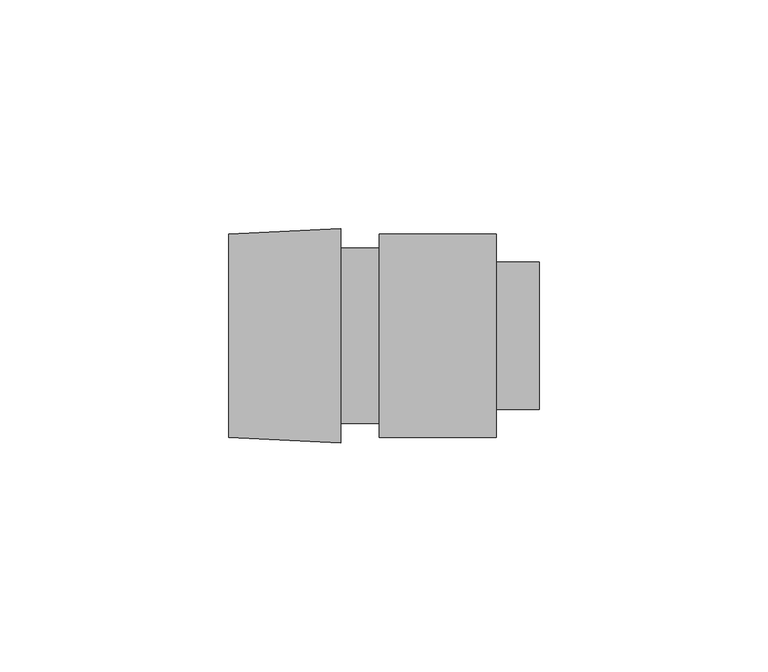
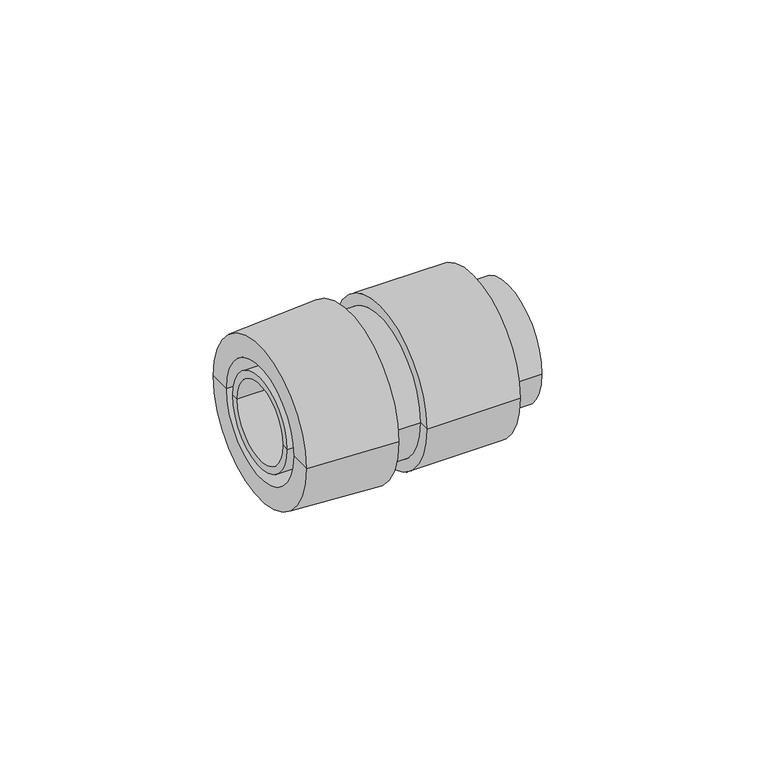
"""IFC4 building model written with IfcOpenShell, lengths in millimetres: cable carrier fitting geometry, КНС_ПереходникАрмированнаяТрубаКоробка_IP65_DKC : Коробка."""

import ifcopenshell
import ifcopenshell.guid

model = None  # the IFC model being written
_history = None  # IfcOwnerHistory: only IFC2X3 demands one
_inside = {}  # id of a spatial element -> (the spatial element, [elements in it])
_under = {}  # id of a project, library or spatial element -> (it, [spatial elements below it])
_declared = {}  # id of a project -> (the project, [libraries it declares])
_typed = {}  # id of a type object -> (the type object, [elements of that type])
_made_of = {}  # id of a material, layer set ... -> (it, [elements and type objects made of it])


def new_model(schema):
    """Start an empty IFC model of exactly this schema.

    Asked for "IFC4X3", IfcOpenShell would pick the latest addendum, in which some entities
    have other attributes; the version numbers below select the first issue.
    IFC2X3 requires an IfcOwnerHistory on every rooted entity: one is made here for all.
    """
    global model, _history
    if schema == "IFC4X3":
        model = ifcopenshell.file(schema_version=(4, 3, 0, 0))
    else:
        model = ifcopenshell.file(schema=schema)
    _inside.clear()
    _under.clear()
    _declared.clear()
    _typed.clear()
    _made_of.clear()
    _history = None
    if model.schema == "IFC2X3":
        org = make("IfcOrganization", Name="unknown")
        user = make(
            "IfcPersonAndOrganization",
            ThePerson=make("IfcPerson", FamilyName="unknown"),
            TheOrganization=org,
        )
        app = make(
            "IfcApplication",
            ApplicationDeveloper=org,
            Version="unknown",
            ApplicationFullName="unknown",
            ApplicationIdentifier="unknown",
        )
        _history = make(
            "IfcOwnerHistory",
            OwningUser=user,
            OwningApplication=app,
            ChangeAction="ADDED",
            CreationDate=0,
        )
    return model


def make(cls, **values):
    """One entity of the class cls with the attributes given. An attribute that is None is left unset."""
    return model.create_entity(
        cls, **{name: value for name, value in values.items() if value is not None}
    )


def rooted(cls, **values):
    """An entity with a GlobalId (a new one), such as an element, a storey or a relation."""
    return make(cls, GlobalId=ifcopenshell.guid.new(), OwnerHistory=_history, **values)


def si_unit(unit_type, name, prefix=None):
    """IfcSIUnit, for example si_unit("LENGTHUNIT", "METRE", prefix="MILLI")."""
    return make("IfcSIUnit", UnitType=unit_type, Prefix=prefix, Name=name)


def assignment(units):
    """IfcUnitAssignment: the units of a project."""
    return None if units is None else make("IfcUnitAssignment", Units=units)


def point(xyz):
    """IfcCartesianPoint."""
    return None if xyz is None else make("IfcCartesianPoint", Coordinates=xyz)


def direction(xyz):
    """IfcDirection."""
    return None if xyz is None else make("IfcDirection", DirectionRatios=xyz)


def frame(location, z_axis=None, x_axis=None):
    """IfcAxis2Placement3D, a coordinate frame: its origin and axes. An axis left out is left unset."""
    return make(
        "IfcAxis2Placement3D",
        Location=point(location),
        Axis=direction(z_axis),
        RefDirection=direction(x_axis),
    )


def origin():
    """The frame at (0, 0, 0) with its axes left unset."""
    return frame((0.0, 0.0, 0.0))


def place(relative_to, where):
    """IfcLocalPlacement: puts the frame where relative to a parent placement (None: the world)."""
    return make(
        "IfcLocalPlacement", PlacementRelTo=relative_to, RelativePlacement=where
    )


def context(
    kind, dimensions, precision=None, world=None, true_north=None, identifier=None
):
    """IfcGeometricRepresentationContext, for example the 3D "Model" context."""
    return make(
        "IfcGeometricRepresentationContext",
        ContextIdentifier=identifier,
        ContextType=kind,
        CoordinateSpaceDimension=dimensions,
        Precision=precision,
        WorldCoordinateSystem=world,
        TrueNorth=true_north,
    )


def project(units=None, contexts=None):
    """IfcProject with its units and contexts."""
    return rooted(
        "IfcProject",
        Name="project",
        RepresentationContexts=contexts,
        UnitsInContext=assignment(units),
    )


def spatial(cls, under=None, at=None, **own):
    """A site, building, storey or space (cls), placed at a placement, below another one or the project."""
    s = rooted(cls, ObjectPlacement=at, **own)
    if under is not None:
        _under.setdefault(under.id(), (under, []))[1].append(s)
    return s


def polyline(points):
    """IfcPolyline through the points."""
    return make("IfcPolyline", Points=[point(p) for p in points])


def circle_curve(where, radius):
    """IfcCircle in the frame where."""
    return make("IfcCircle", Position=where, Radius=radius)


def shape(context_of_items, identifier, shape_type, items):
    """IfcShapeRepresentation: the items that make up one representation, for example the "Body"."""
    return make(
        "IfcShapeRepresentation",
        ContextOfItems=context_of_items,
        RepresentationIdentifier=identifier,
        RepresentationType=shape_type,
        Items=items,
    )


def source(mapping_origin, context_of_items, identifier, shape_type, items):
    """IfcRepresentationMap: a shape defined once, which mapped items show again and again."""
    return make(
        "IfcRepresentationMap",
        MappingOrigin=mapping_origin,
        MappedRepresentation=shape(context_of_items, identifier, shape_type, items),
    )


def transform(
    local_origin,
    x_axis=None,
    y_axis=None,
    z_axis=None,
    scale=None,
    scale2=None,
    scale3=None,
    uniform=True,
):
    """IfcCartesianTransformationOperator3D, or its non-uniform kind. x_axis, y_axis, z_axis: its Axis1, 2, 3."""
    if uniform:
        return make(
            "IfcCartesianTransformationOperator3D",
            Axis1=direction(x_axis),
            Axis2=direction(y_axis),
            LocalOrigin=point(local_origin),
            Scale=scale,
            Axis3=direction(z_axis),
        )
    return make(
        "IfcCartesianTransformationOperator3DnonUniform",
        Axis1=direction(x_axis),
        Axis2=direction(y_axis),
        LocalOrigin=point(local_origin),
        Scale=scale,
        Axis3=direction(z_axis),
        Scale2=scale2,
        Scale3=scale3,
    )


def mapped(mapping_source, mapping_target):
    """IfcMappedItem: shows the shape of a source again, moved by a transform."""
    return make(
        "IfcMappedItem", MappingSource=mapping_source, MappingTarget=mapping_target
    )


def made_of(thing, what):
    """Note that an element or type object is made of a material, layer set ...; save() writes the relation."""
    if what is not None:
        _made_of.setdefault(what.id(), (what, []))[1].append(thing)
    return thing


def element(
    cls,
    number,
    at=None,
    inside=None,
    cuts=None,
    type_object=None,
    material=None,
    context=None,
    identifier="Body",
    shape_type=None,
    held_by="IfcProductDefinitionShape",
    body=None,
    shapes=None,
    **own,
):
    """One element of the class cls, such as IfcWall. Its Tag is "e" and its number.

    at: its placement. inside: the storey or other place that contains it. cuts: it is an
    opening in that element (IfcRelVoidsElement). A single representation is given by context,
    identifier, shape_type and body (its items); several are given by shapes. held_by: the class
    of the entity that holds the representations. save() writes the other relations.
    """
    e = rooted(cls, Tag="e%d" % number, ObjectPlacement=at, **own)
    if body is not None:
        shapes = [shape(context, identifier, shape_type, body)]
    if shapes is not None:
        e.Representation = make(held_by, Representations=shapes)
    if inside is not None:
        _inside.setdefault(inside.id(), (inside, []))[1].append(e)
    if cuts is not None:
        rooted(
            "IfcRelVoidsElement", RelatingBuildingElement=cuts, RelatedOpeningElement=e
        )
    if type_object is not None:
        _typed.setdefault(type_object.id(), (type_object, []))[1].append(e)
    return made_of(e, material)


def aggregate(whole, parts):
    """IfcRelAggregates: a whole, such as a stair, and the parts it consists of."""
    return rooted("IfcRelAggregates", RelatingObject=whole, RelatedObjects=parts)


def save(model, path):
    """Write the relations noted so far, then the file.

    IfcRelAggregates (storeys below a building ...), IfcRelContainedInSpatialStructure (elements
    in a storey), IfcRelDefinesByType, IfcRelAssociatesMaterial and IfcRelDeclares: one each for
    every whole, place, type object, material and project.
    """
    for whole, parts in _under.values():
        aggregate(whole, parts)
    for where, things in _inside.values():
        rooted(
            "IfcRelContainedInSpatialStructure",
            RelatedElements=things,
            RelatingStructure=where,
        )
    for kind, things in _typed.values():
        rooted("IfcRelDefinesByType", RelatedObjects=things, RelatingType=kind)
    for what, things in _made_of.values():
        rooted("IfcRelAssociatesMaterial", RelatedObjects=things, RelatingMaterial=what)
    for by, libraries in _declared.values():
        rooted("IfcRelDeclares", RelatingContext=by, RelatedDefinitions=libraries)
    model.write(path)


def plane_surface(at):
    """IfcPlane: the flat surface through the origin of the frame at, square to its z axis."""
    return make("IfcPlane", Position=at)


def cylinder_surface(at, radius):
    """IfcCylindricalSurface: all points at the distance radius from the z axis of the frame at."""
    return make("IfcCylindricalSurface", Position=at, Radius=radius)


def revolved_surface(curve, axis_point, axis_direction):
    """IfcSurfaceOfRevolution: the curve turned about the line through axis_point along axis_direction."""
    return make(
        "IfcSurfaceOfRevolution",
        SweptCurve=make("IfcArbitraryOpenProfileDef", ProfileType="CURVE", Curve=curve),
        AxisPosition=make("IfcAxis1Placement", Location=point(axis_point), Axis=direction(axis_direction)),
    )


def advanced_brep(points, edges, surfaces, faces):
    """IfcAdvancedBrep: a solid bounded by faces that lie on surfaces and meet in shared edges.

    An edge is (start, end): straight between two places in points (the first is 0);
    or (start, end, curve); or (start, end, curve, False) where it runs against its curve.
    A face is (place in surfaces, loops), or (place, loops, False) where it looks against
    its surface's normal. A loop lists edges by number (the first is 1), with a minus sign
    where the edge is run from its end to its start. The first loop is the outer one.
    """
    corners = [point(p) for p in points]
    vertices = [make("IfcVertexPoint", VertexGeometry=c) for c in corners]
    made = []
    for start, end, *more in edges:
        made.append(
            make(
                "IfcEdgeCurve",
                EdgeStart=vertices[start],
                EdgeEnd=vertices[end],
                EdgeGeometry=more[0] if more else make("IfcPolyline", Points=[corners[start], corners[end]]),
                SameSense=more[1] if len(more) > 1 else True,
            )
        )
    hull = []
    for where, loops, *sense in faces:
        bounds = []
        for j, loop in enumerate(loops):
            ring = [make("IfcOrientedEdge", EdgeElement=made[abs(k) - 1], Orientation=k > 0) for k in loop]
            bounds.append(
                make(
                    "IfcFaceOuterBound" if j == 0 else "IfcFaceBound",
                    Bound=make("IfcEdgeLoop", EdgeList=ring),
                    Orientation=True,
                )
            )
        hull.append(make("IfcAdvancedFace", Bounds=bounds, FaceSurface=surfaces[where], SameSense=sense[0] if sense else True))
    return make("IfcAdvancedBrep", Outer=make("IfcClosedShell", CfsFaces=hull))


def cable_carrier_fitting_34188251(model_context):
    return source(origin(), model_context, "Body", "AdvancedBrep", [
        advanced_brep(
        [(43.5, -14.0853846, 0.0), (43.5, 14.0853846, 0.0), (0.0, 14.0853846, 0.0), (0.0, -14.0853846, 0.0), (43.5, -16.15, 0.0), (43.5, 16.15, 0.0), (34.0, -16.15, 0.0), (34.0, 16.15, 0.0), (34.0, -22.25, 0.0), (34.0, 22.25, 0.0), (8.5, -22.25, 0.0), (8.5, 22.25, 0.0), (8.5, -19.2, 0.0), (8.5, 19.2, 0.0), (0.0, -19.2, 0.0), (0.0, 19.2, 0.0)],
        [
            (0, 1, circle_curve(frame((43.5, 0.0, 0.0), z_axis=(1.0, 0.0, 0.0), x_axis=(0.0, 1.0, 0.0)), 14.0853846)),
            (1, 2),
            (2, 3, circle_curve(frame((0.0, 0.0, 0.0), z_axis=(-1.0, 0.0, 0.0), x_axis=(0.0, 1.0, 0.0)), 14.0853846)),
            (3, 0),
            (1, 0, circle_curve(frame((43.5, 0.0, 0.0), z_axis=(1.0, 0.0, 0.0), x_axis=(0.0, 1.0, 0.0)), 14.0853846)),
            (3, 2, circle_curve(frame((0.0, 0.0, 0.0), z_axis=(-1.0, 0.0, 0.0), x_axis=(0.0, 1.0, 0.0)), 14.0853846)),
            (4, 5, circle_curve(frame((43.5, 0.0, 0.0), z_axis=(1.0, 0.0, 0.0), x_axis=(0.0, 1.0, 0.0)), 16.15)),
            (5, 1),
            (0, 4),
            (5, 4, circle_curve(frame((43.5, 0.0, 0.0), z_axis=(1.0, 0.0, 0.0), x_axis=(0.0, 1.0, 0.0)), 16.15)),
            (6, 7, circle_curve(frame((34.0, 0.0, 0.0), z_axis=(1.0, 0.0, 0.0), x_axis=(0.0, 1.0, 0.0)), 16.15)),
            (7, 5),
            (4, 6),
            (7, 6, circle_curve(frame((34.0, 0.0, 0.0), z_axis=(1.0, 0.0, 0.0), x_axis=(0.0, 1.0, 0.0)), 16.15)),
            (8, 9, circle_curve(frame((34.0, 0.0, 0.0), z_axis=(1.0, 0.0, 0.0), x_axis=(0.0, 1.0, 0.0)), 22.25)),
            (9, 7),
            (6, 8),
            (9, 8, circle_curve(frame((34.0, 0.0, 0.0), z_axis=(1.0, 0.0, 0.0), x_axis=(0.0, 1.0, 0.0)), 22.25)),
            (10, 11, circle_curve(frame((8.5, 0.0, 0.0), z_axis=(1.0, 0.0, 0.0), x_axis=(0.0, 1.0, 0.0)), 22.25)),
            (11, 9),
            (8, 10),
            (11, 10, circle_curve(frame((8.5, 0.0, 0.0), z_axis=(1.0, 0.0, 0.0), x_axis=(0.0, 1.0, 0.0)), 22.25)),
            (12, 13, circle_curve(frame((8.5, 0.0, 0.0), z_axis=(1.0, 0.0, 0.0), x_axis=(0.0, 1.0, 0.0)), 19.2)),
            (13, 11),
            (10, 12),
            (13, 12, circle_curve(frame((8.5, 0.0, 0.0), z_axis=(1.0, 0.0, 0.0), x_axis=(0.0, 1.0, 0.0)), 19.2)),
            (14, 15, circle_curve(frame((0.0, 0.0, 0.0), z_axis=(1.0, 0.0, 0.0), x_axis=(0.0, 1.0, 0.0)), 19.2)),
            (15, 13),
            (12, 14),
            (15, 14, circle_curve(frame((0.0, 0.0, 0.0), z_axis=(1.0, 0.0, 0.0), x_axis=(0.0, 1.0, 0.0)), 19.2)),
            (2, 15),
            (14, 3),
        ],
        [
            revolved_surface(polyline([(0.0, 14.0853846, 0.0), (43.5, 14.0853846, 0.0)]), (1532.0, 0.0, 0.0), (-1.0, 0.0, 0.0)),
            plane_surface(frame((43.5, 0.0, 0.0), z_axis=(1.0, 0.0, 0.0), x_axis=(0.0, 1.0, 0.0))),
            cylinder_surface(frame((1532.0, 0.0, 0.0), z_axis=(-1.0, 0.0, 0.0), x_axis=(0.0, 1.0, 0.0)), 16.15),
            plane_surface(frame((34.0, 0.0, 0.0), z_axis=(1.0, 0.0, 0.0), x_axis=(0.0, 1.0, 0.0))),
            cylinder_surface(frame((1532.0, 0.0, 0.0), z_axis=(-1.0, 0.0, 0.0), x_axis=(0.0, 1.0, 0.0)), 22.25),
            plane_surface(frame((8.5, 0.0, 0.0), z_axis=(-1.0, 0.0, 0.0), x_axis=(0.0, 1.0, 0.0))),
            cylinder_surface(frame((1532.0, 0.0, 0.0), z_axis=(-1.0, 0.0, 0.0), x_axis=(0.0, 1.0, 0.0)), 19.2),
            plane_surface(frame((0.0, 0.0, 0.0), z_axis=(-1.0, 0.0, 0.0), x_axis=(0.0, 1.0, 0.0))),
        ],
        [
            (0, [[1, 2, 3, 4]]),
            (0, [[5, -4, 6, -2]]),
            (1, [[7, 8, -1, 9]]),
            (1, [[10, -9, -5, -8]]),
            (2, [[11, 12, -7, 13]]),
            (2, [[14, -13, -10, -12]]),
            (3, [[15, 16, -11, 17]]),
            (3, [[18, -17, -14, -16]]),
            (4, [[19, 20, -15, 21]]),
            (4, [[22, -21, -18, -20]]),
            (5, [[23, 24, -19, 25]]),
            (5, [[26, -25, -22, -24]]),
            (6, [[27, 28, -23, 29]]),
            (6, [[30, -29, -26, -28]]),
            (7, [[-3, 31, -27, 32]]),
            (7, [[-6, -32, -30, -31]]),
        ],
    ),
        advanced_brep(
        [(0.0, -23.5, 0.0), (0.0, 23.5, 0.0), (0.0, 16.15, 0.0), (0.0, -16.15, 0.0), (-24.5, -22.25, 0.0), (-24.5, 22.25, 0.0), (-24.5, -16.15, 0.0), (-24.5, 16.15, 0.0)],
        [
            (0, 1, circle_curve(frame((0.0, 0.0, 0.0), z_axis=(1.0, 0.0, 0.0), x_axis=(0.0, 1.0, 0.0)), 23.5)),
            (1, 2),
            (2, 3, circle_curve(frame((0.0, 0.0, 0.0), z_axis=(-1.0, 0.0, 0.0), x_axis=(0.0, 1.0, 0.0)), 16.15)),
            (3, 0),
            (1, 0, circle_curve(frame((0.0, 0.0, 0.0), z_axis=(1.0, 0.0, 0.0), x_axis=(0.0, 1.0, 0.0)), 23.5)),
            (3, 2, circle_curve(frame((0.0, 0.0, 0.0), z_axis=(-1.0, 0.0, 0.0), x_axis=(0.0, 1.0, 0.0)), 16.15)),
            (4, 5, circle_curve(frame((-24.5, 0.0, 0.0), z_axis=(1.0, 0.0, 0.0), x_axis=(0.0, 1.0, 0.0)), 22.25)),
            (5, 1),
            (0, 4),
            (5, 4, circle_curve(frame((-24.5, 0.0, 0.0), z_axis=(1.0, 0.0, 0.0), x_axis=(0.0, 1.0, 0.0)), 22.25)),
            (6, 7, circle_curve(frame((-24.5, 0.0, 0.0), z_axis=(1.0, 0.0, 0.0), x_axis=(0.0, 1.0, 0.0)), 16.15)),
            (7, 5),
            (4, 6),
            (7, 6, circle_curve(frame((-24.5, 0.0, 0.0), z_axis=(1.0, 0.0, 0.0), x_axis=(0.0, 1.0, 0.0)), 16.15)),
            (2, 7),
            (6, 3),
        ],
        [
            plane_surface(frame((0.0, 0.0, 0.0), z_axis=(1.0, 0.0, 0.0), x_axis=(0.0, 1.0, 0.0))),
            revolved_surface(polyline([(0.0, 23.5, 0.0), (-24.5, 22.25, 0.0)]), (1532.0, 0.0, 0.0), (-1.0, 0.0, 0.0)),
            plane_surface(frame((-24.5, 0.0, 0.0), z_axis=(-1.0, 0.0, 0.0), x_axis=(0.0, 1.0, 0.0))),
            revolved_surface(polyline([(-24.5, 16.15, 0.0), (0.0, 16.15, 0.0)]), (1532.0, 0.0, 0.0), (-1.0, 0.0, 0.0)),
        ],
        [
            (0, [[1, 2, 3, 4]]),
            (0, [[5, -4, 6, -2]]),
            (1, [[7, 8, -1, 9]]),
            (1, [[10, -9, -5, -8]]),
            (2, [[11, 12, -7, 13]]),
            (2, [[14, -13, -10, -12]]),
            (3, [[-3, 15, -11, 16]]),
            (3, [[-6, -16, -14, -15]]),
        ],
    ),
        advanced_brep(
        [(-24.5, -13.0, 0.0), (-24.5, 13.0, 0.0), (0.0, 13.0, 0.0), (0.0, -13.0, 0.0), (-24.5, -11.0, 0.0), (-24.5, 11.0, 0.0), (0.0, -11.0, 0.0), (0.0, 11.0, 0.0)],
        [
            (0, 1, circle_curve(frame((-24.5, 0.0, 0.0), z_axis=(1.0, 0.0, 0.0), x_axis=(0.0, 1.0, 0.0)), 13.0)),
            (1, 2),
            (2, 3, circle_curve(frame((0.0, 0.0, 0.0), z_axis=(-1.0, 0.0, 0.0), x_axis=(0.0, 1.0, 0.0)), 13.0)),
            (3, 0),
            (1, 0, circle_curve(frame((-24.5, 0.0, 0.0), z_axis=(1.0, 0.0, 0.0), x_axis=(0.0, 1.0, 0.0)), 13.0)),
            (3, 2, circle_curve(frame((0.0, 0.0, 0.0), z_axis=(-1.0, 0.0, 0.0), x_axis=(0.0, 1.0, 0.0)), 13.0)),
            (4, 5, circle_curve(frame((-24.5, 0.0, 0.0), z_axis=(1.0, 0.0, 0.0), x_axis=(0.0, 1.0, 0.0)), 11.0)),
            (5, 1),
            (0, 4),
            (5, 4, circle_curve(frame((-24.5, 0.0, 0.0), z_axis=(1.0, 0.0, 0.0), x_axis=(0.0, 1.0, 0.0)), 11.0)),
            (6, 7, circle_curve(frame((0.0, 0.0, 0.0), z_axis=(1.0, 0.0, 0.0), x_axis=(0.0, 1.0, 0.0)), 11.0)),
            (7, 5),
            (4, 6),
            (7, 6, circle_curve(frame((0.0, 0.0, 0.0), z_axis=(1.0, 0.0, 0.0), x_axis=(0.0, 1.0, 0.0)), 11.0)),
            (2, 7),
            (6, 3),
        ],
        [
            cylinder_surface(frame((1532.0, 0.0, 0.0), z_axis=(-1.0, 0.0, 0.0), x_axis=(0.0, 1.0, 0.0)), 13.0),
            plane_surface(frame((-24.5, 0.0, 0.0), z_axis=(-1.0, 0.0, 0.0), x_axis=(0.0, 1.0, 0.0))),
            revolved_surface(polyline([(-24.5, 11.0, 0.0), (0.0, 11.0, 0.0)]), (1532.0, 0.0, 0.0), (-1.0, 0.0, 0.0)),
            plane_surface(frame((0.0, 0.0, 0.0), z_axis=(1.0, 0.0, 0.0), x_axis=(0.0, 1.0, 0.0))),
        ],
        [
            (0, [[1, 2, 3, 4]]),
            (0, [[5, -4, 6, -2]]),
            (1, [[7, 8, -1, 9]]),
            (1, [[10, -9, -5, -8]]),
            (2, [[11, 12, -7, 13]]),
            (2, [[14, -13, -10, -12]]),
            (3, [[-3, 15, -11, 16]]),
            (3, [[-6, -16, -14, -15]]),
        ],
    ),
    ])


if __name__ == "__main__":
    model = new_model("IFC4")
    model_context = context("Model", 3, world=origin())
    ifc_project = project(units=[si_unit("LENGTHUNIT", "METRE", prefix="MILLI")], contexts=[model_context])
    site = spatial("IfcSite", under=ifc_project)
    building = spatial("IfcBuilding", under=site)
    placement = place(None, origin())
    cable_carrier_fitting_shape = cable_carrier_fitting_34188251(model_context)
    element("IfcCableCarrierFitting", 1, ObjectType="КНС_ПереходникАрмированнаяТрубаКоробка_IP65_DKC : Коробка", at=placement, inside=building, context=model_context, shape_type="MappedRepresentation", body=[
        mapped(cable_carrier_fitting_shape, transform((0.0, 0.0, 0.0), x_axis=(1.0, 0.0, 0.0), y_axis=(0.0, 1.0, 0.0), z_axis=(0.0, 0.0, 1.0))),
    ])
    save(model, "model.ifc")
